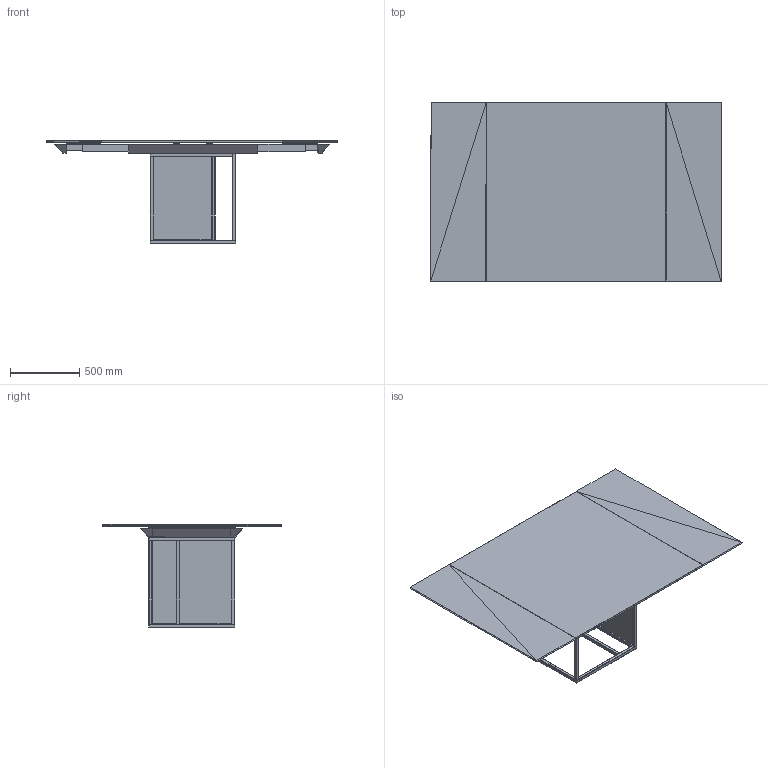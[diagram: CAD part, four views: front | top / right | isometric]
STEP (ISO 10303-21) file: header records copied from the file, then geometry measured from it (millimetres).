
FILE_DESCRIPTION(/* description */ (''),/* implementation_level */ '2;1');
FILE_NAME(/* name */ 'THEO_1~1',/* time_stamp */ '2019-07-05T15:40:57+02:00',/* author */ (''),/* organization */ (''),/* preprocessor_version */ 'ST-DEVELOPER v16.5',/* originating_system */ '',/* authorisation */ '');
FILE_SCHEMA (('CONFIG_CONTROL_DESIGN'));
Length unit declared in the file: millimetre
Products named in the file (1): Document
Bounding box: 2105.17 x 1302.27 x 747.53 mm (x, y, z)
Volume: 63670640.8 mm3; surface area: 10967760.8 mm2
Topology: 65 solids, 132 shells, 785 faces, 2134 edges, 1452 vertices
Faces by surface type: plane 490, bspline 295
Entity records: 32617 total; most frequent: CARTESIAN_POINT 19276, ORIENTED_EDGE 3690, EDGE_CURVE 1994, B_SPLINE_CURVE_WITH_KNOTS 1508, VERTEX_POINT 1402, EDGE_LOOP 899, ADVANCED_FACE 785, FACE_OUTER_BOUND 785
